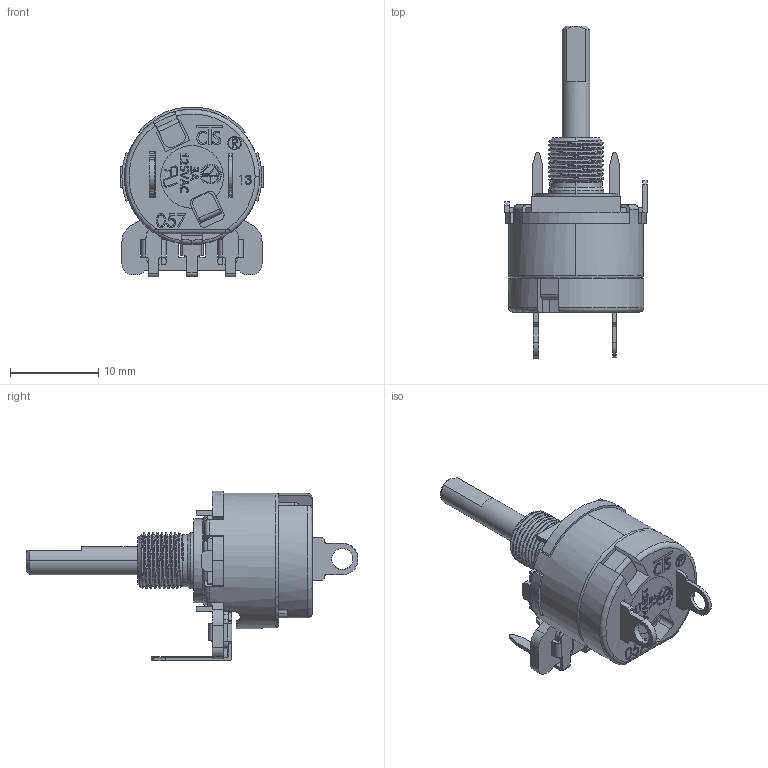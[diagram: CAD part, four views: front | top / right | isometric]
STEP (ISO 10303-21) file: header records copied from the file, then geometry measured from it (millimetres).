
FILE_DESCRIPTION (( 'STEP AP214' ), '1' );
FILE_NAME ('270U224B252B1B1.STEP', '2019-05-24T08:15:22', ( '' ), ( '' ), 'SwSTEP 2.0', 'SolidWorks 2019', '' );
FILE_SCHEMA (( 'AUTOMOTIVE_DESIGN' ));
Length unit declared in the file: millimetre
Products named in the file (12): 270-01-125-30-01G; 270-13-027-06-12 (for 270-95-009); 270A-A-2252; 270-40-057-02-53; 270-18-020-01-37(for 270-95-009); 270-07-014-01-53; shaft for 270U224B252B1B1; 057-01-T11-34-01; 057-18-46-18-12; 270U224B252B1B1; 057-18-060-18-12; 270 element
Assembly tree (11 placements, depth 2):
  270U224B252B1B1
    270-40-057-02-53
    270-01-125-30-01G
    270-07-014-01-53
    270A-A-2252
    shaft for 270U224B252B1B1
    270 element
    270-13-027-06-12 (for 270-95-009)
    057-01-T11-34-01
    057-18-060-18-12
    057-18-46-18-12
    270-18-020-01-37(for 270-95-009)
Bounding box: 16.16 x 37.67 x 19.27 mm (x, y, z)
Volume: 1569.4 mm3; surface area: 4097.5 mm2
Topology: 12 solids, 12 shells, 1139 faces, 3138 edges, 2050 vertices
Faces by surface type: plane 638, cylinder 312, bspline 142, torus 25, cone 20, sphere 2
Entity records: 44780 total; most frequent: CARTESIAN_POINT 15825, ORIENTED_EDGE 6268, DIRECTION 5450, EDGE_CURVE 3134, VERTEX_POINT 2048, LINE 1992, VECTOR 1992, AXIS2_PLACEMENT_3D 1729
